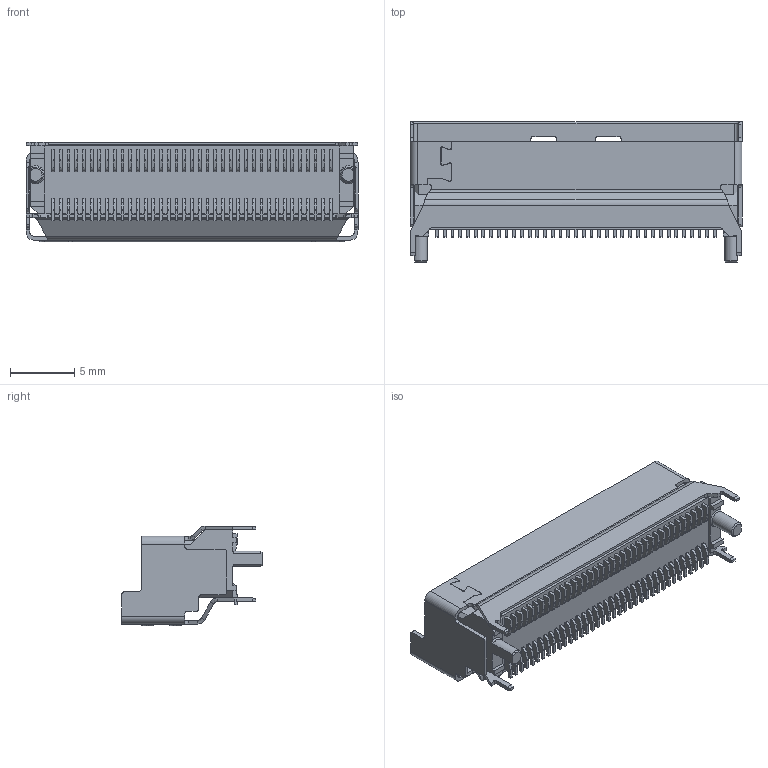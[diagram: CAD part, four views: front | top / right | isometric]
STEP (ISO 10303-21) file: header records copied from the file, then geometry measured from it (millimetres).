
FILE_DESCRIPTION((''),'2;1');
FILE_NAME('PMC074-3X0X-XXX-XH_CUSTOMER_10','2026-07-20T13:50:38',('39002408'),(''),'CREO PARAMETRIC BY PTC INC, 2019471','CREO PARAMETRIC BY PTC INC, 2019471','');
FILE_SCHEMA(('AUTOMOTIVE_DESIGN { 1 0 10303 214 1 1 1 1 }'));
Length unit declared in the file: millimetre
Products named in the file (1): PMC074-3X0X-XXX-XH_CUSTOMER_10
Bounding box: 25.8 x 10.9 x 7.77 mm (x, y, z)
Volume: 798.3 mm3; surface area: 2028.9 mm2
Topology: 1 solids, 1 shells, 1331 faces, 3578 edges, 2362 vertices
Faces by surface type: plane 998, cylinder 307, bspline 20, cone 6
Entity records: 42274 total; most frequent: CARTESIAN_POINT 8557, ORIENTED_EDGE 7156, DIRECTION 6482, EDGE_CURVE 3578, VECTOR 2886, LINE 2886, VERTEX_POINT 2362, AXIS2_PLACEMENT_3D 1798
